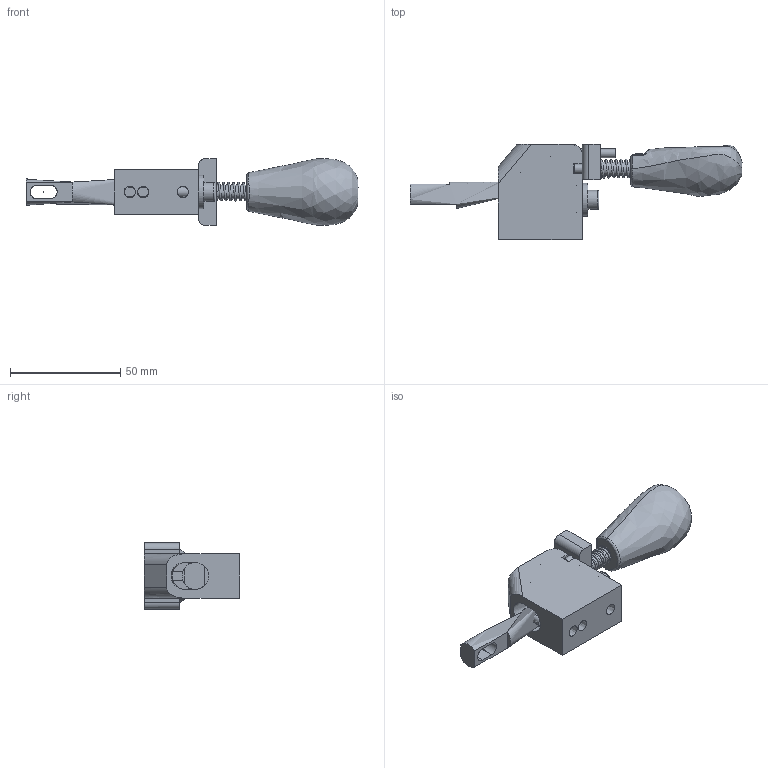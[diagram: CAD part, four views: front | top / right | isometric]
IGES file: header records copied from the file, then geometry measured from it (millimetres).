
Global section: file name: SUD-20ST-CLAMP; native system: Autodesk Inventor 2019; preprocessor: unknown; author: 桶田 勝弘,,11,0, ; organization: 20171007.081954; date: 20240514.170204; units: millimetre
Bounding box: 150.25 x 43 x 30.18 mm (x, y, z)
Volume: 53920 mm3; surface area: 24141.9 mm2
Topology: 13 solids, 13 shells, 265 faces, 724 edges, 484 vertices
Faces by surface type: bspline 265
